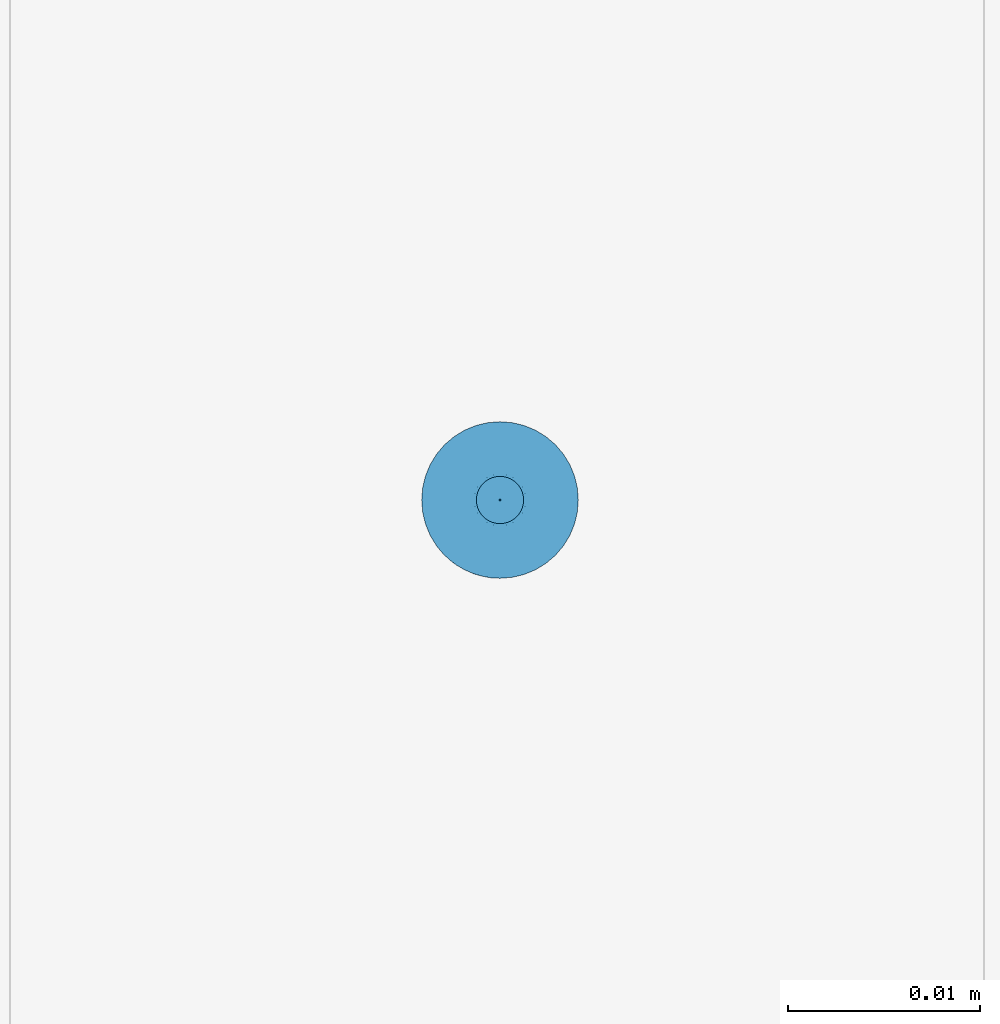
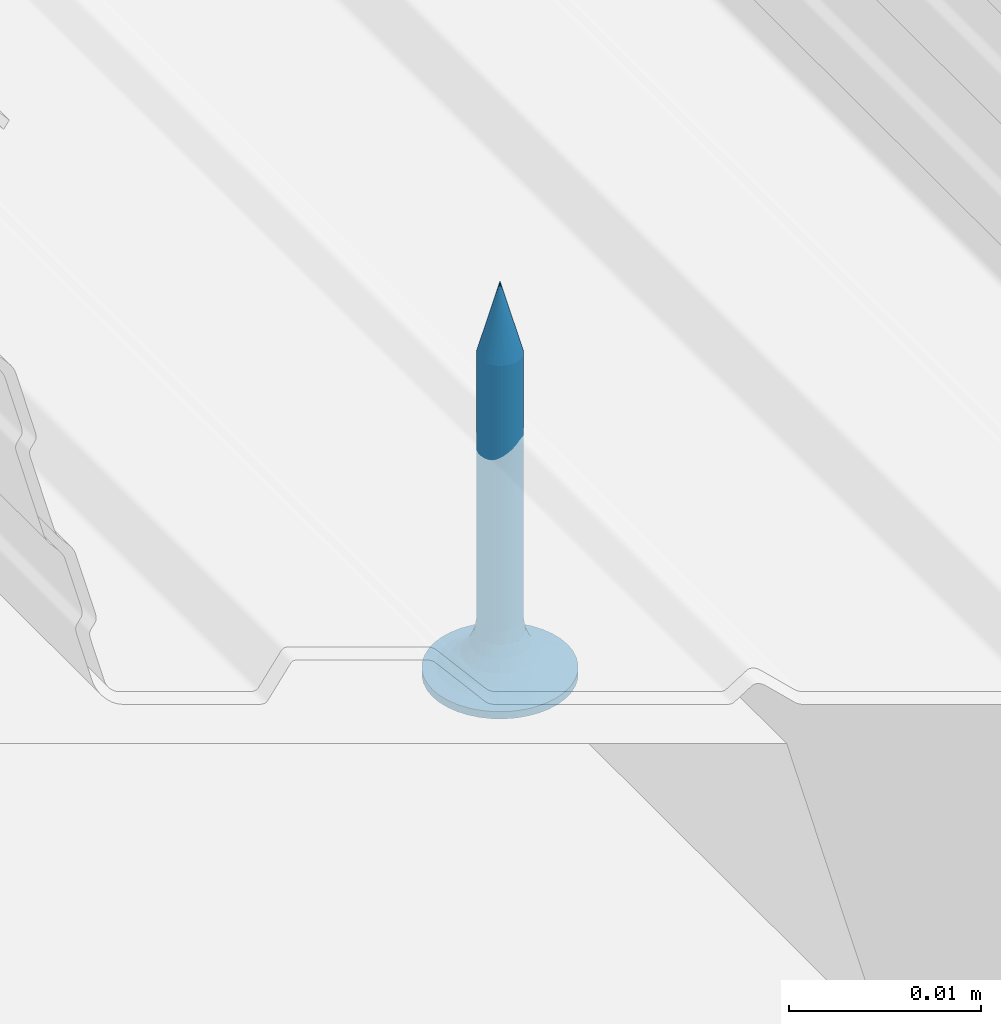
# One storey, part 11 of 62: 1 slab.
"""IFC2X3 building model written with IfcOpenShell, lengths in millimetres."""

from ifc_helpers import new_model, entity, si_unit, converted_unit, direction, frame, origin, origin_with_axes, place, context, project, spatial, faceted_brep, element, save


model = new_model("IFC2X3")

# Units and contexts
model_context = context("Model", 3, precision=1e-05, world=origin(), true_north=direction((0.0, 1.0, 0.0)))
ifc_project = project(units=[si_unit("LENGTHUNIT", "METRE", prefix="MILLI"), si_unit("AREAUNIT", "SQUARE_METRE"), si_unit("VOLUMEUNIT", "CUBIC_METRE"), converted_unit("PLANEANGLEUNIT", "DEGREE", entity("IfcPlaneAngleMeasure", 0.01745), si_unit("PLANEANGLEUNIT", "RADIAN"), dimensions=[0, 0, 0, 0, 0, 0, 0]), si_unit("SOLIDANGLEUNIT", "STERADIAN"), si_unit("MASSUNIT", "GRAM"), si_unit("TIMEUNIT", "SECOND"), si_unit("THERMODYNAMICTEMPERATUREUNIT", "DEGREE_CELSIUS"), si_unit("LUMINOUSINTENSITYUNIT", "LUMEN")], contexts=[model_context])

# Site, building, storey
site_placement = place(None, origin_with_axes())
site = spatial("IfcSite", under=ifc_project, at=site_placement, Name="Default Site", CompositionType="ELEMENT")
building_placement = place(site_placement, origin_with_axes())
building = spatial("IfcBuilding", under=site, at=building_placement, Name="Default Building", CompositionType="ELEMENT")
storey_placement = place(building_placement, origin_with_axes())
storey = spatial("IfcBuildingStorey", under=building, at=storey_placement, Name="Default Building Storey", CompositionType="ELEMENT", Elevation=0.0)

# Slab
slab_placement = place(storey_placement, frame((3300.661558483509, 1133.901992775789, 4687.393042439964), z_axis=(0.0, 1.0, 2.220446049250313e-16), x_axis=(1.0, -1.802054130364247e-31, 8.115730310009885e-16)))
element("IfcSlab", 1, at=slab_placement, inside=storey, Name="Wkręt RIGIPS TN 25", context=model_context, shape_type="Brep", body=[
    faceted_brep([(-141.5377463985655, 3390.556721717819, 555.8000000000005), (-141.5377463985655, 3391.020944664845, 555.8000000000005), (-141.4875329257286, 3391.020944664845, 555.1619773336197), (-141.4875329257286, 3390.556721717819, 555.1619773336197), (-141.338128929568, 3391.020944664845, 554.5396649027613), (-141.338128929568, 3390.556721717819, 554.5396649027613), (-141.0932132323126, 3391.020944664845, 553.9483861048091), (-141.0932132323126, 3390.556721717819, 553.9483861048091), (-140.7588164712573, 3391.020944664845, 553.4027001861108), (-140.7588164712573, 3390.556721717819, 553.4027001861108), (-140.3431726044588, 3391.020944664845, 552.9160437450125), (-140.4541727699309, 3390.556721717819, 553.0314907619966), (-140.1080097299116, 3390.556721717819, 552.6986614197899), (-139.8565161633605, 3391.020944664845, 552.500399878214), (-139.7251262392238, 3390.556721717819, 552.4088262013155), (-139.3108302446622, 3391.020944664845, 552.1660031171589), (-139.3108302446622, 3390.556721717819, 552.1660031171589), (-138.8708651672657, 3390.556721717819, 551.9735584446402), (-138.7195514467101, 3391.020944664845, 551.9210874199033), (-138.4113302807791, 3390.556721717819, 551.8341600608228), (-137.9385961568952, 3390.556721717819, 551.7497404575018), (-138.0972390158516, 3391.020944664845, 551.7716834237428), (-137.459216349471, 3391.020944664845, 551.7214699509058), (-137.459216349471, 3390.556721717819, 551.7214699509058), (-136.8211936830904, 3391.020944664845, 551.7716834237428), (-136.8211936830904, 3390.556721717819, 551.7716834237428), (-136.198881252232, 3391.020944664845, 551.9210874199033), (-136.198881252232, 3390.556721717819, 551.9210874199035), (-135.6076024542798, 3391.020944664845, 552.1660031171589), (-135.6076024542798, 3390.556721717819, 552.1660031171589), (-135.0619165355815, 3391.020944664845, 552.500399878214), (-135.0619165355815, 3390.556721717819, 552.500399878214), (-134.5752600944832, 3391.020944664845, 552.9160437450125), (-134.5752600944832, 3390.556721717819, 552.9160437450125), (-134.1596162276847, 3391.020944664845, 553.4027001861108), (-134.1596162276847, 3390.556721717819, 553.4027001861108), (-133.8252194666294, 3391.020944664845, 553.9483861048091), (-133.8252194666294, 3390.556721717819, 553.9483861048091), (-133.580303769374, 3391.020944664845, 554.5396649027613), (-133.580303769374, 3390.556721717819, 554.5396649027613), (-133.4308997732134, 3391.020944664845, 556.438022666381), (-133.4308997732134, 3390.556721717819, 556.438022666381), (-133.3806863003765, 3390.556721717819, 555.8000000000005), (-133.3806863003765, 3391.020944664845, 555.8000000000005), (-133.4308997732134, 3390.556721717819, 555.1619773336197), (-133.4308997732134, 3391.020944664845, 555.1619773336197), (-133.580303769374, 3391.020944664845, 557.0603350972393), (-133.580303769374, 3390.556721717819, 557.0603350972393), (-133.8252194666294, 3391.020944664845, 557.6516138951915), (-133.8252194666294, 3390.556721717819, 557.6516138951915), (-134.1596162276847, 3391.020944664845, 558.1972998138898), (-134.1596162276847, 3390.556721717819, 558.1972998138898), (-134.5752600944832, 3391.020944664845, 558.6839562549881), (-134.5752600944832, 3390.556721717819, 558.6839562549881), (-135.0619165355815, 3391.020944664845, 559.0996001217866), (-135.0619165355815, 3390.556721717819, 559.0996001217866), (-135.6076024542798, 3391.020944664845, 559.4339968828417), (-135.6076024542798, 3390.556721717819, 559.4339968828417), (-136.198881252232, 3391.020944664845, 559.6789125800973), (-136.198881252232, 3390.556721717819, 559.6789125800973), (-136.8211936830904, 3391.020944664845, 559.8283165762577), (-136.8211936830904, 3390.556721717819, 559.8283165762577), (-137.459216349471, 3391.020944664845, 559.8785300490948), (-137.459216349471, 3390.556721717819, 559.8785300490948), (-138.0972390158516, 3391.020944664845, 559.8283165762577), (-138.0972390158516, 3390.556721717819, 559.8283165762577), (-138.7195514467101, 3391.020944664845, 559.6789125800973), (-138.7195514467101, 3390.556721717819, 559.6789125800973), (-139.3108302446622, 3391.020944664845, 559.4339968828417), (-139.3108302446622, 3390.556721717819, 559.4339968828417), (-139.8565161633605, 3391.020944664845, 559.0996001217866), (-139.8565161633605, 3390.556721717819, 559.0996001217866), (-140.3431726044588, 3391.020944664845, 558.6839562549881), (-140.3431726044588, 3390.556721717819, 558.6839562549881), (-140.7588164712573, 3391.020944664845, 558.1972998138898), (-140.7588164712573, 3390.556721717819, 558.1972998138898), (-141.0932132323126, 3391.020944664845, 557.6516138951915), (-141.0932132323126, 3390.556721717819, 557.6516138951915), (-141.338128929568, 3391.020944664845, 557.0603350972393), (-141.338128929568, 3390.556721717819, 557.0603350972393), (-141.4875329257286, 3391.020944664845, 556.438022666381), (-141.4875329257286, 3390.556721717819, 556.438022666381), (-137.8060615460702, 3388.229732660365, 554.5055560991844), (-137.459216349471, 3387.475459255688, 554.5693795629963), (-137.6517277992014, 3387.475459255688, 554.5845305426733), (-137.459216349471, 3388.229732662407, 554.4598930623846), (-137.8394989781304, 3387.475459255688, 554.6296104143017), (-138.1292698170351, 3388.229732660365, 554.6394333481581), (-138.0179063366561, 3387.475459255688, 554.7035091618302), (-138.1825568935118, 3387.475459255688, 554.8044071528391), (-138.4068150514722, 3388.229732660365, 554.8524012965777), (-138.3293964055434, 3387.475459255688, 554.9298199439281), (-138.6197830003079, 3388.229732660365, 555.1299465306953), (-138.4548091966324, 3387.475459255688, 555.0766594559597), (-138.5557071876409, 3387.475459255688, 555.2413100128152), (-138.7536602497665, 3388.229732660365, 555.4531548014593), (-138.6296059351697, 3387.475459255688, 555.4197173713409), (-138.6746858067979, 3387.475459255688, 555.6074885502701), (-138.7993232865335, 3388.229732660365, 555.7999999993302), (-138.6898367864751, 3387.475459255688, 555.8000000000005), (-138.7536602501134, 3388.229732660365, 556.1468451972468), (-138.6746858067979, 3387.475459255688, 555.9925114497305), (-138.6296059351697, 3387.475459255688, 556.1802826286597), (-138.6197830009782, 3388.229732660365, 556.4700534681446), (-138.5557071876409, 3387.475459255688, 556.3586899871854), (-138.4548091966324, 3387.475459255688, 556.5233405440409), (-138.4068150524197, 3388.229732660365, 556.7475987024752), (-138.3293964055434, 3387.475459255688, 556.6701800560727), (-138.1292698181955, 3388.229732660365, 556.9605666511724), (-138.1825568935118, 3387.475459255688, 556.7955928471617), (-138.0179063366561, 3387.475459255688, 556.8964908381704), (-137.8060615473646, 3388.229732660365, 557.0944439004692), (-137.8394989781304, 3387.475459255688, 556.9703895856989), (-137.6517277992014, 3387.475459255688, 557.0154694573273), (-137.459216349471, 3388.229732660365, 557.1401069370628), (-137.459216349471, 3387.475459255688, 557.0306204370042), (-137.1123711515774, 3388.229732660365, 557.0944439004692), (-137.2667048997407, 3387.475459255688, 557.0154694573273), (-137.0789337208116, 3387.475459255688, 556.9703895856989), (-136.7891628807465, 3388.229732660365, 556.9605666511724), (-136.9005263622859, 3387.475459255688, 556.8964908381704), (-136.7358758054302, 3387.475459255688, 556.7955928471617), (-136.5116176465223, 3388.229732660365, 556.7475987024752), (-136.5890362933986, 3387.475459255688, 556.6701800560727), (-136.2986496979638, 3388.229732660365, 556.4700534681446), (-136.4636235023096, 3387.475459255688, 556.5233405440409), (-136.3627255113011, 3387.475459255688, 556.3586899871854), (-136.1647724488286, 3388.229732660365, 556.1468451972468), (-136.2888267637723, 3387.475459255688, 556.1802826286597), (-136.2437468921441, 3387.475459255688, 555.9925114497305), (-136.1191094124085, 3388.229732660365, 555.7999999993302), (-136.2285959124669, 3387.475459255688, 555.8000000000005), (-136.1647724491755, 3388.229732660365, 555.4531548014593), (-136.2437468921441, 3387.475459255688, 555.6074885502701), (-136.2888267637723, 3387.475459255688, 555.4197173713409), (-136.2986496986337, 3388.229732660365, 555.1299465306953), (-136.3627255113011, 3387.475459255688, 555.2413100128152), (-136.4636235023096, 3387.475459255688, 555.0766594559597), (-136.5116176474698, 3388.229732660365, 554.8524012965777), (-136.5890362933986, 3387.475459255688, 554.9298199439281), (-136.7891628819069, 3388.229732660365, 554.6394333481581), (-136.7358758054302, 3387.475459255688, 554.8044071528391), (-136.9005263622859, 3387.475459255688, 554.7035091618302), (-137.1123711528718, 3388.229732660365, 554.5055560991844), (-137.0789337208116, 3387.475459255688, 554.6296104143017), (-137.2667048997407, 3387.475459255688, 554.5845305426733), (-137.459216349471, 3388.936142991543, 554.1737111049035), (-137.8801308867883, 3388.936142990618, 554.2291255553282), (-138.2723607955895, 3388.936142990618, 554.39159250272), (-138.6091762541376, 3388.936142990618, 554.6500400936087), (-138.8676238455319, 3388.936142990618, 554.9868555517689), (-139.030090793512, 3388.936142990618, 555.3790854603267), (-139.0855052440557, 3388.936142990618, 555.7999999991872), (-139.0300907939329, 3388.936142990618, 556.220914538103), (-138.8676238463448, 3388.936142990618, 556.6131444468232), (-138.6091762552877, 3388.936142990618, 556.949959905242), (-138.272360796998, 3388.936142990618, 557.2084074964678), (-137.8801308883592, 3388.936142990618, 557.3708744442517), (-137.459216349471, 3388.936142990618, 557.4262888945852), (-137.0383018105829, 3388.936142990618, 557.3708744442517), (-136.646071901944, 3388.936142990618, 557.2084074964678), (-136.3092564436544, 3388.936142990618, 556.949959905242), (-136.0508088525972, 3388.936142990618, 556.6131444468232), (-135.8883419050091, 3388.936142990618, 556.220914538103), (-135.8329274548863, 3388.936142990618, 555.7999999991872), (-135.88834190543, 3388.936142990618, 555.3790854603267), (-136.0508088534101, 3388.936142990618, 554.9868555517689), (-136.3092564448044, 3388.936142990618, 554.6500400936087), (-136.6460719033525, 3388.936142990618, 554.39159250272), (-137.0383018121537, 3388.936142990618, 554.2291255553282), (-137.459216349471, 3389.553938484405, 553.727343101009), (-137.995659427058, 3389.553938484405, 553.7979671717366), (-138.4955447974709, 3389.553938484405, 554.0050264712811), (-138.9248060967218, 3389.553938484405, 554.3344102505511), (-139.2541898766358, 3389.553938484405, 554.763671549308), (-139.46124917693, 3389.553938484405, 555.2635569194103), (-139.5318732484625, 3389.553938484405, 555.799999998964), (-139.4612491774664, 3389.553938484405, 556.3364430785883), (-139.2541898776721, 3389.553938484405, 556.8363284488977), (-138.9248060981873, 3389.553938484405, 557.2655897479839), (-138.495544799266, 3389.553938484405, 557.5949735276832), (-137.9956594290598, 3389.553938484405, 557.8020328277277), (-137.459216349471, 3389.553938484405, 557.8726568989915), (-136.9227732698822, 3389.553938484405, 557.8020328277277), (-136.422887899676, 3389.553938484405, 557.5949735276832), (-135.9936266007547, 3389.553938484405, 557.2655897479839), (-135.6642428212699, 3389.553938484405, 556.8363284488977), (-135.4571835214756, 3389.553938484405, 556.3364430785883), (-135.3865594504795, 3389.553938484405, 555.799999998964), (-135.457183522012, 3389.553938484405, 555.2635569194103), (-135.6642428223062, 3389.553938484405, 554.763671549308), (-135.9936266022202, 3389.553938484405, 554.3344102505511), (-136.4228879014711, 3389.553938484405, 554.0050264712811), (-136.922773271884, 3389.553938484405, 553.7979671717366), (-137.459216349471, 3390.04747944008, 553.1465393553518), (-138.1459824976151, 3390.047479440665, 553.2369538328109), (-138.7859466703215, 3390.047479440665, 553.5020356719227), (-139.3354963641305, 3390.047479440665, 553.9237199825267), (-139.7571806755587, 3390.047479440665, 554.4732696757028), (-140.0222625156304, 3390.047479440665, 555.1132338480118), (-140.1126769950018, 3390.047479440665, 555.7999999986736), (-140.0222625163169, 3390.047479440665, 556.4867661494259), (-139.7571806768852, 3390.047479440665, 557.1267303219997), (-139.3354963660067, 3390.047479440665, 557.6762800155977), (-138.7859466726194, 3390.047479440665, 558.0979643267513), (-138.1459825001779, 3390.047479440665, 558.3630461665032), (-137.459216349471, 3390.047479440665, 558.4534606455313), (-136.7724501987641, 3390.047479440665, 558.3630461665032), (-136.1324860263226, 3390.047479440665, 558.0979643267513), (-135.5829363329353, 3390.047479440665, 557.6762800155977), (-135.1612520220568, 3390.047479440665, 557.1267303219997), (-134.8961701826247, 3390.047479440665, 556.4867661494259), (-134.8057557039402, 3390.047479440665, 555.7999999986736), (-134.8961701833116, 3390.047479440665, 555.1132338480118), (-135.1612520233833, 3390.047479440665, 554.4732696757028), (-135.5829363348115, 3390.047479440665, 553.9237199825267), (-136.1324860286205, 3390.047479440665, 553.5020356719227), (-136.7724502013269, 3390.047479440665, 553.2369538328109), (-137.459216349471, 3390.388294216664, 552.4648055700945), (-138.3224281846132, 3390.388294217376, 552.5784495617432), (-139.1268135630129, 3390.388294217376, 552.9116368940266), (-139.8175549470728, 3390.388294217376, 553.4416613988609), (-140.3475794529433, 3390.388294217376, 554.1324027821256), (-140.6807667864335, 3390.388294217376, 554.936788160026), (-140.7944107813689, 3390.388294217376, 555.7999999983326), (-140.6807667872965, 3390.388294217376, 556.663211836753), (-140.3475794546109, 3390.388294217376, 557.4675972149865), (-139.8175549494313, 3390.388294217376, 558.1583385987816), (-139.1268135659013, 3390.388294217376, 558.6883631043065), (-138.3224281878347, 3390.388294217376, 559.0215504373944), (-137.459216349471, 3390.388294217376, 559.1351944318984), (-136.5960045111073, 3390.388294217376, 559.0215504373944), (-135.7916191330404, 3390.388294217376, 558.6883631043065), (-135.1008777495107, 3390.388294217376, 558.1583385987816), (-134.5708532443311, 3390.388294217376, 557.4675972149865), (-134.2376659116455, 3390.388294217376, 556.663211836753), (-134.1240219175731, 3390.388294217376, 555.7999999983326), (-134.2376659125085, 3390.388294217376, 554.936788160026), (-134.5708532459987, 3390.388294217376, 554.1324027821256), (-135.1008777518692, 3390.388294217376, 553.4416613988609), (-135.7916191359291, 3390.388294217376, 552.9116368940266), (-136.5960045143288, 3390.388294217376, 552.5784495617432), (-138.6898367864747, 3370.55807436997, 555.8000000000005), (-138.6746858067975, 3370.55807436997, 555.6074885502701), (-138.6296059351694, 3370.55807436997, 555.4197173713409), (-138.5557071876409, 3370.55807436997, 555.2413100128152), (-138.4548091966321, 3370.55807436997, 555.0766594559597), (-138.329396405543, 3370.55807436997, 554.9298199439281), (-138.1825568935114, 3370.55807436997, 554.8044071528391), (-138.0179063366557, 3370.55807436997, 554.7035091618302), (-137.83949897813, 3370.55807436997, 554.6296104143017), (-137.651727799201, 3370.55807436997, 554.5845305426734), (-137.4592163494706, 3370.55807436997, 554.5693795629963), (-137.2667048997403, 3370.55807436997, 554.5845305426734), (-137.0789337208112, 3370.55807436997, 554.6296104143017), (-136.9005263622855, 3370.55807436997, 554.7035091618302), (-136.7358758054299, 3370.55807436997, 554.8044071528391), (-136.5890362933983, 3370.55807436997, 554.9298199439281), (-136.4636235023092, 3370.55807436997, 555.0766594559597), (-136.3627255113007, 3370.55807436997, 555.2413100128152), (-136.2888267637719, 3370.55807436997, 555.4197173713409), (-136.2437468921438, 3370.55807436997, 555.9925114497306), (-136.2285959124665, 3370.55807436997, 555.8000000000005), (-136.2437468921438, 3370.55807436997, 555.6074885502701), (-136.2888267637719, 3370.55807436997, 556.1802826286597), (-136.3627255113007, 3370.55807436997, 556.3586899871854), (-136.4636235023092, 3370.55807436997, 556.5233405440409), (-136.5890362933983, 3370.55807436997, 556.6701800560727), (-136.7358758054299, 3370.55807436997, 556.7955928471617), (-136.9005263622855, 3370.55807436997, 556.8964908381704), (-137.0789337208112, 3370.55807436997, 556.9703895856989), (-137.2667048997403, 3370.55807436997, 557.0154694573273), (-137.4592163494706, 3370.55807436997, 557.0306204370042), (-137.651727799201, 3370.55807436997, 557.0154694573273), (-137.83949897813, 3370.55807436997, 556.9703895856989), (-138.0179063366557, 3370.55807436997, 556.8964908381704), (-138.1825568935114, 3370.55807436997, 556.7955928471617), (-138.329396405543, 3370.55807436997, 556.6701800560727), (-138.4548091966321, 3370.55807436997, 556.5233405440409), (-138.5557071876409, 3370.55807436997, 556.3586899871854), (-138.6296059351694, 3370.55807436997, 556.1802826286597), (-138.6746858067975, 3370.55807436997, 555.9925114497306), (-137.4592163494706, 3366.021033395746, 555.8000000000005), (-139.9592163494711, 3391.020944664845, 556.3000000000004), (-137.9592163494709, 3391.020944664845, 556.3000000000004), (-139.9592163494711, 3391.020944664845, 555.3000000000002), (-137.9592163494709, 3391.020944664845, 555.3000000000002), (-137.9592163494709, 3391.020944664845, 553.3000000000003), (-136.9592163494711, 3391.020944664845, 553.3000000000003), (-136.9592163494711, 3391.020944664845, 555.3000000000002), (-134.9592163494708, 3391.020944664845, 555.3000000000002), (-134.9592163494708, 3391.020944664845, 556.3000000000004), (-136.9592163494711, 3391.020944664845, 556.3000000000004), (-136.9592163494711, 3391.020944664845, 558.3000000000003), (-137.9592163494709, 3391.020944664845, 558.3000000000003), (-136.9592163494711, 3390.128974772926, 556.3000000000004), (-134.9592163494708, 3390.128974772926, 556.3000000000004), (-134.9592163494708, 3390.128974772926, 555.3000000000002), (-136.9592163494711, 3390.128974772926, 555.3000000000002), (-136.9592163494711, 3390.128974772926, 553.3000000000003), (-137.9592163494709, 3390.128974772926, 553.3000000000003), (-137.9592163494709, 3390.128974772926, 555.3000000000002), (-139.9592163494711, 3390.128974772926, 555.3000000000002), (-139.9592163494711, 3390.128974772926, 556.3000000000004), (-137.9592163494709, 3390.128974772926, 556.3000000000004), (-137.9592163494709, 3390.128974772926, 558.3000000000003), (-136.9592163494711, 3390.128974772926, 558.3000000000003)], [[[0, 1, 2, 3]], [[4, 5, 3, 2]], [[6, 7, 5, 4]], [[7, 6, 8, 9]], [[8, 10, 9]], [[10, 11, 9]], [[12, 11, 13]], [[11, 10, 13]], [[13, 14, 12]], [[13, 15, 14]], [[15, 16, 14]], [[17, 16, 18]], [[16, 15, 18]], [[18, 19, 17]], [[20, 19, 21]], [[19, 18, 21]], [[21, 22, 20]], [[22, 23, 20]], [[23, 22, 24, 25]], [[26, 27, 25, 24]], [[28, 29, 27, 26]], [[29, 28, 30, 31]], [[32, 33, 31, 30]], [[33, 32, 34, 35]], [[36, 37, 35, 34]], [[38, 39, 37, 36]], [[40, 41, 42, 43]], [[43, 42, 44, 45]], [[39, 38, 45, 44]], [[46, 47, 41, 40]], [[48, 49, 47, 46]], [[49, 48, 50, 51]], [[52, 53, 51, 50]], [[53, 52, 54, 55]], [[56, 57, 55, 54]], [[58, 59, 57, 56]], [[59, 58, 60, 61]], [[62, 63, 61, 60]], [[63, 62, 64, 65]], [[66, 67, 65, 64]], [[68, 69, 67, 66]], [[69, 68, 70, 71]], [[72, 73, 71, 70]], [[73, 72, 74, 75]], [[76, 77, 75, 74]], [[78, 79, 77, 76]], [[79, 78, 80, 81]], [[1, 0, 81, 80]], [[82, 83, 84]], [[82, 85, 83]], [[84, 86, 82]], [[82, 86, 87]], [[88, 87, 86]], [[87, 88, 89]], [[89, 90, 87]], [[89, 91, 90]], [[92, 91, 93]], [[92, 90, 91]], [[93, 94, 92]], [[92, 94, 95]], [[96, 95, 94]], [[95, 96, 97]], [[97, 98, 95]], [[97, 99, 98]], [[100, 99, 101]], [[100, 98, 99]], [[101, 102, 100]], [[100, 102, 103]], [[104, 103, 102]], [[103, 104, 105]], [[105, 106, 103]], [[105, 107, 106]], [[108, 107, 109]], [[108, 106, 107]], [[109, 110, 108]], [[108, 110, 111]], [[112, 111, 110]], [[111, 112, 113]], [[113, 114, 111]], [[113, 115, 114]], [[116, 115, 117]], [[116, 114, 115]], [[117, 118, 116]], [[116, 118, 119]], [[120, 119, 118]], [[119, 120, 121]], [[121, 122, 119]], [[121, 123, 122]], [[124, 123, 125]], [[124, 122, 123]], [[125, 126, 124]], [[124, 126, 127]], [[128, 127, 126]], [[127, 128, 129]], [[129, 130, 127]], [[129, 131, 130]], [[132, 131, 133]], [[132, 130, 131]], [[133, 134, 132]], [[132, 134, 135]], [[136, 135, 134]], [[135, 136, 137]], [[137, 138, 135]], [[137, 139, 138]], [[140, 139, 141]], [[140, 138, 139]], [[141, 142, 140]], [[140, 142, 143]], [[144, 143, 142]], [[143, 144, 145]], [[145, 85, 143]], [[145, 83, 85]], [[146, 85, 147]], [[82, 147, 85]], [[87, 148, 147, 82]], [[90, 149, 148, 87]], [[92, 150, 149, 90]], [[95, 151, 150, 92]], [[98, 152, 151, 95]], [[100, 153, 152, 98]], [[103, 154, 153, 100]], [[106, 155, 154, 103]], [[108, 156, 155, 106]], [[111, 157, 156, 108]], [[114, 158, 157, 111]], [[116, 159, 158, 114]], [[119, 160, 159, 116]], [[122, 161, 160, 119]], [[124, 162, 161, 122]], [[127, 163, 162, 124]], [[130, 164, 163, 127]], [[132, 165, 164, 130]], [[135, 166, 165, 132]], [[138, 167, 166, 135]], [[140, 168, 167, 138]], [[143, 169, 168, 140]], [[143, 85, 169]], [[146, 169, 85]], [[170, 146, 171]], [[147, 171, 146]], [[148, 172, 171, 147]], [[149, 173, 172, 148]], [[150, 174, 173, 149]], [[151, 175, 174, 150]], [[152, 176, 175, 151]], [[153, 177, 176, 152]], [[154, 178, 177, 153]], [[155, 179, 178, 154]], [[156, 180, 179, 155]], [[157, 181, 180, 156]], [[158, 182, 181, 157]], [[159, 183, 182, 158]], [[160, 184, 183, 159]], [[161, 185, 184, 160]], [[162, 186, 185, 161]], [[163, 187, 186, 162]], [[164, 188, 187, 163]], [[165, 189, 188, 164]], [[166, 190, 189, 165]], [[167, 191, 190, 166]], [[168, 192, 191, 167]], [[169, 193, 192, 168]], [[169, 146, 193]], [[170, 193, 146]], [[194, 170, 195]], [[171, 195, 170]], [[172, 196, 195, 171]], [[173, 197, 196, 172]], [[174, 198, 197, 173]], [[175, 199, 198, 174]], [[176, 200, 199, 175]], [[177, 201, 200, 176]], [[178, 202, 201, 177]], [[179, 203, 202, 178]], [[180, 204, 203, 179]], [[181, 205, 204, 180]], [[182, 206, 205, 181]], [[183, 207, 206, 182]], [[184, 208, 207, 183]], [[185, 209, 208, 184]], [[186, 210, 209, 185]], [[187, 211, 210, 186]], [[188, 212, 211, 187]], [[189, 213, 212, 188]], [[190, 214, 213, 189]], [[191, 215, 214, 190]], [[192, 216, 215, 191]], [[193, 217, 216, 192]], [[193, 170, 217]], [[194, 217, 170]], [[218, 19, 20]], [[218, 219, 19]], [[20, 23, 218]], [[218, 194, 219]], [[195, 219, 194]], [[219, 16, 17]], [[219, 220, 16]], [[17, 19, 219]], [[196, 220, 219, 195]], [[221, 11, 12]], [[220, 12, 14]], [[220, 221, 12]], [[14, 16, 220]], [[197, 221, 220, 196]], [[222, 7, 9]], [[9, 221, 222]], [[9, 11, 221]], [[198, 222, 221, 197]], [[5, 7, 223]], [[222, 223, 7]], [[199, 223, 222, 198]], [[223, 0, 3]], [[223, 224, 0]], [[3, 5, 223]], [[200, 224, 223, 199]], [[225, 79, 81]], [[81, 224, 225]], [[81, 0, 224]], [[201, 225, 224, 200]], [[225, 226, 77, 79]], [[202, 226, 225, 201]], [[226, 73, 75]], [[226, 227, 73]], [[75, 77, 226]], [[203, 227, 226, 202]], [[228, 69, 71]], [[71, 227, 228]], [[71, 73, 227]], [[204, 228, 227, 203]], [[228, 229, 67, 69]], [[205, 229, 228, 204]], [[229, 63, 65]], [[229, 230, 63]], [[65, 67, 229]], [[206, 230, 229, 205]], [[231, 59, 61]], [[61, 230, 231]], [[61, 63, 230]], [[207, 231, 230, 206]], [[231, 232, 57, 59]], [[208, 232, 231, 207]], [[232, 53, 55]], [[232, 233, 53]], [[55, 57, 232]], [[209, 233, 232, 208]], [[234, 49, 51]], [[51, 233, 234]], [[51, 53, 233]], [[210, 234, 233, 209]], [[234, 235, 47, 49]], [[211, 235, 234, 210]], [[235, 42, 41]], [[235, 236, 42]], [[41, 47, 235]], [[212, 236, 235, 211]], [[237, 39, 44]], [[44, 236, 237]], [[44, 42, 236]], [[213, 237, 236, 212]], [[37, 39, 238]], [[237, 238, 39]], [[214, 238, 237, 213]], [[238, 33, 35]], [[238, 239, 33]], [[35, 37, 238]], [[215, 239, 238, 214]], [[240, 29, 31]], [[31, 239, 240]], [[31, 33, 239]], [[216, 240, 239, 215]], [[27, 29, 241]], [[240, 241, 29]], [[217, 241, 240, 216]], [[217, 194, 241]], [[218, 241, 194]], [[241, 23, 25]], [[241, 218, 23]], [[25, 27, 241]], [[242, 99, 97, 243]], [[96, 244, 243, 97]], [[94, 245, 244, 96]], [[245, 94, 93, 246]], [[91, 247, 246, 93]], [[247, 91, 89, 248]], [[88, 249, 248, 89]], [[86, 250, 249, 88]], [[250, 86, 84, 251]], [[83, 252, 251, 84]], [[252, 83, 145, 253]], [[144, 254, 253, 145]], [[142, 255, 254, 144]], [[255, 142, 141, 256]], [[139, 257, 256, 141]], [[257, 139, 137, 258]], [[136, 259, 258, 137]], [[134, 260, 259, 136]], [[129, 261, 262, 131]], [[131, 262, 263, 133]], [[260, 134, 133, 263]], [[128, 264, 261, 129]], [[126, 265, 264, 128]], [[265, 126, 125, 266]], [[123, 267, 266, 125]], [[267, 123, 121, 268]], [[120, 269, 268, 121]], [[118, 270, 269, 120]], [[270, 118, 117, 271]], [[115, 272, 271, 117]], [[272, 115, 113, 273]], [[112, 274, 273, 113]], [[110, 275, 274, 112]], [[275, 110, 109, 276]], [[107, 277, 276, 109]], [[277, 107, 105, 278]], [[104, 279, 278, 105]], [[102, 280, 279, 104]], [[280, 102, 101, 281]], [[99, 242, 281, 101]], [[243, 244, 282]], [[282, 242, 243]], [[244, 245, 282]], [[246, 247, 282]], [[282, 245, 246]], [[248, 249, 282]], [[282, 247, 248]], [[249, 250, 282]], [[251, 252, 282]], [[282, 250, 251]], [[253, 254, 282]], [[282, 252, 253]], [[254, 255, 282]], [[256, 257, 282]], [[282, 255, 256]], [[258, 259, 282]], [[282, 257, 258]], [[259, 260, 282]], [[263, 262, 282]], [[282, 260, 263]], [[261, 264, 282]], [[282, 262, 261]], [[264, 265, 282]], [[266, 267, 282]], [[282, 265, 266]], [[268, 269, 282]], [[282, 267, 268]], [[269, 270, 282]], [[271, 272, 282]], [[282, 270, 271]], [[273, 274, 282]], [[282, 272, 273]], [[274, 275, 282]], [[276, 277, 282]], [[282, 275, 276]], [[278, 279, 282]], [[282, 277, 278]], [[279, 280, 282]], [[281, 242, 282]], [[282, 280, 281]], [[283, 76, 74, 284]], [[283, 285, 286, 287, 288, 289, 290, 291, 292, 293, 294, 284, 74, 72, 70, 68, 66, 64, 62, 60, 58, 56, 54, 52, 50, 48, 46, 40, 43, 45, 38, 36, 34, 32, 30, 28, 26, 24, 22, 21, 18, 15, 13, 10, 8, 6, 4, 2, 1, 80, 78, 76]], [[295, 296, 297, 298, 299, 300, 301, 302, 303, 304, 305, 306]], [[297, 290, 289, 298]], [[296, 291, 290, 297]], [[295, 292, 291, 296]], [[306, 293, 292, 295]], [[305, 294, 293, 306]], [[304, 284, 294, 305]], [[303, 283, 284, 304]], [[302, 285, 283, 303]], [[301, 286, 285, 302]], [[300, 287, 286, 301]], [[299, 288, 287, 300]], [[298, 289, 288, 299]]]),
])

save(model, "model.ifc")
